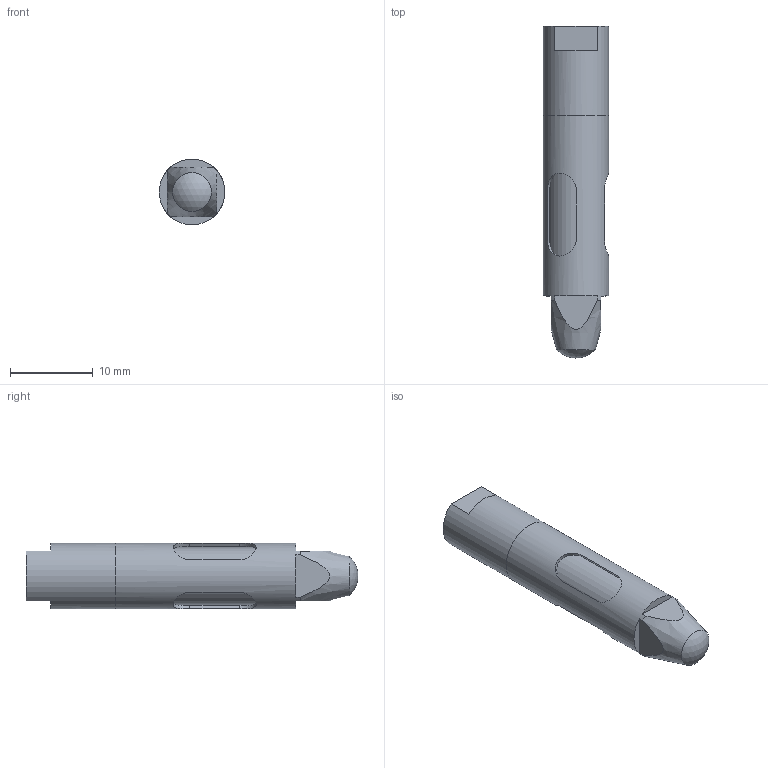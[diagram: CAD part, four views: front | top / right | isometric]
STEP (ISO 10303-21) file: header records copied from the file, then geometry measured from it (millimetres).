
FILE_DESCRIPTION(/* description */ (''),/* implementation_level */ '2;1');
FILE_NAME(/* name */ 'T:\Anwender\Praktikant\Tobias Könemund\Innengreifer\Parametrisch\G-GI008_vereinfacht.stp',/* time_stamp */ '2015-10-30T08:20:44+01:00',/* author */ ('Praktikant'),/* organization */ ('GRIP GmbH'),/* preprocessor_version */ 'ST-DEVELOPER v15.2',/* originating_system */ 'Autodesk Inventor 2014',/* authorisation */ '');
FILE_SCHEMA (('AUTOMOTIVE_DESIGN { 1 0 10303 214 3 1 1 }'));
Length unit declared in the file: millimetre
Products named in the file (3): G-GI008-2.1-1 Dorn_vereinfacht-13; G-GI008-1.1-1 Hülse_vereinfacht-06; Baugruppe_vereinfacht
Bounding box: 7.9 x 40.03 x 7.9 mm (x, y, z)
Volume: 1509.2 mm3; surface area: 1942.8 mm2
Topology: 2 solids, 2 shells, 37 faces, 95 edges, 63 vertices
Faces by surface type: plane 23, cylinder 11, cone 2, sphere 1
Full cylindrical faces by diameter (mm): 5 x1, 6.9 x1, 7.1 x1, 7.9 x2
Entity records: 1288 total; most frequent: CARTESIAN_POINT 392, DIRECTION 170, ORIENTED_EDGE 162, EDGE_CURVE 81, AXIS2_PLACEMENT_3D 63, VERTEX_POINT 57, EDGE_LOOP 52, LINE 44
